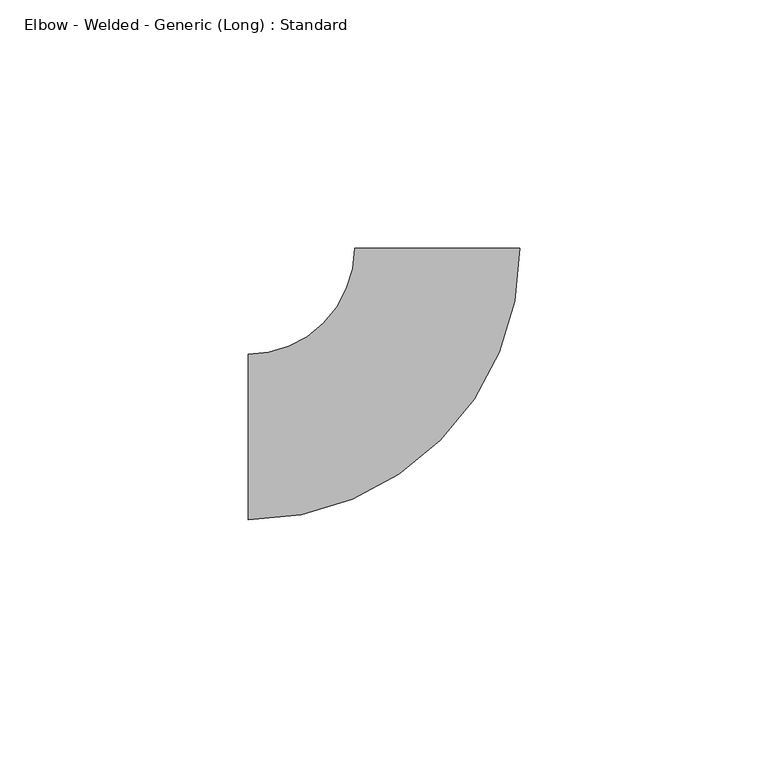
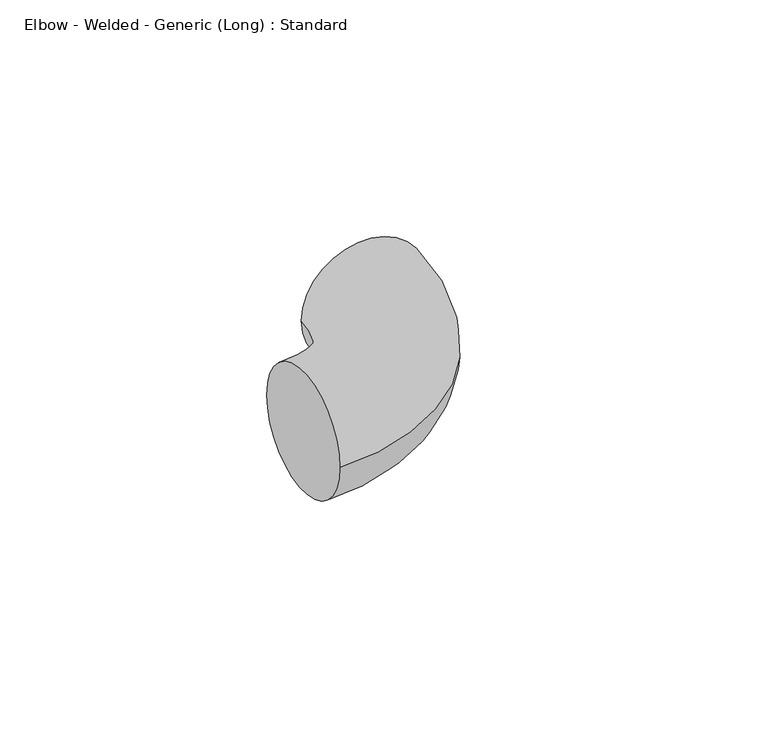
"""IFC4 building model written with IfcOpenShell, lengths in millimetres: pipe fitting geometry, Elbow - Welded - Generic (Long) : Standard."""

from ifc_helpers import new_model, si_unit, point, frame, origin, place, context, project, spatial, circle_curve, ellipse_curve, trimmed, source, transform, mapped, element, save
from ifc_brep_helpers import plane_surface, revolved_surface, advanced_brep


def elbow_welded_generic_long_standard_25611d14(model_context):
    return source(origin(), model_context, "Body", "AdvancedBrep", [
        advanced_brep(
        [(-38.1, -16.66875, 0.0), (-38.1, 16.66875, 0.0), (16.7199773, 38.077547, 0.0), (-16.6174926, 38.1223841, 0.0)],
        [
            (0, 1, circle_curve(frame((-38.1, 0.0, 0.0), z_axis=(-1.0, 0.0, 0.0), x_axis=(0.0, 1.0, 0.0)), 16.66875)),
            (1, 0, circle_curve(frame((-38.1, 0.0, 0.0), z_axis=(-1.0, 0.0, 0.0), x_axis=(0.0, 1.0, 0.0)), 16.66875)),
            (2, 3, circle_curve(frame((0.0512424, 38.0999655, 0.0), z_axis=(0.0013449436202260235, 0.9999990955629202, 0.0), x_axis=(-0.9999990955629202, 0.0013449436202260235, 0.0)), 16.66875)),
            (3, 2, circle_curve(frame((0.0512424, 38.0999655, 0.0), z_axis=(0.0013449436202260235, 0.9999990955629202, 0.0), x_axis=(-0.9999990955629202, 0.0013449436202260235, 0.0)), 16.66875)),
            (3, 1, circle_curve(frame((-38.1, 38.1512769, 0.0), z_axis=(0.0, 0.0, -1.0), x_axis=(0.0, -1.0, 0.0)), 21.4825269)),
            (0, 2, circle_curve(frame((-38.1, 38.1512769, 0.0), z_axis=(0.0, 0.0, 1.0), x_axis=(0.0, -1.0, 0.0)), 54.8200269)),
        ],
        [
            plane_surface(frame((-38.1, 0.0, 0.0), z_axis=(-1.0, 0.0, 0.0), x_axis=(0.0, 0.0, 1.0))),
            plane_surface(frame((0.0512424, 38.0999655, 0.0), z_axis=(0.0013449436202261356, 0.9999990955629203, 0.0), x_axis=(0.0, 0.0, 1.0))),
            revolved_surface(trimmed(ellipse_curve(frame((-38.1, 0.0, 0.0), z_axis=(-1.0, 0.0, 0.0), x_axis=(0.0, 1.0, 0.0)), 16.66875, 16.66875), [point((-38.1, -16.66875, 0.0))], [point((-38.1, 16.66875, 0.0))], True, "CARTESIAN"), (-38.1, 38.1512769, 0.0), (0.0, 0.0, 1.0)),
            revolved_surface(trimmed(ellipse_curve(frame((-38.1, 0.0, 0.0), z_axis=(-1.0, 0.0, 0.0), x_axis=(0.0, 1.0, 0.0)), 16.66875, 16.66875), [point((-38.1, 16.66875, 0.0))], [point((-38.1, -16.66875, 0.0))], True, "CARTESIAN"), (-38.1, 38.1512769, 0.0), (0.0, 0.0, 1.0)),
        ],
        [
            (0, [[1, 2]]),
            (1, [[3, 4]]),
            (2, [[5, -1, 6, -4]]),
            (3, [[-6, -2, -5, -3]]),
        ],
    ),
    ])


if __name__ == "__main__":
    model = new_model("IFC4")
    model_context = context("Model", 3, world=origin())
    ifc_project = project(units=[si_unit("LENGTHUNIT", "METRE", prefix="MILLI")], contexts=[model_context])
    site = spatial("IfcSite", under=ifc_project)
    building = spatial("IfcBuilding", under=site)
    placement = place(None, origin())
    elbow_welded_generic_long_standard_shape = elbow_welded_generic_long_standard_25611d14(model_context)
    element("IfcPipeFitting", 1, ObjectType="Elbow - Welded - Generic (Long) : Standard", at=placement, inside=building, context=model_context, shape_type="MappedRepresentation", body=[
        mapped(elbow_welded_generic_long_standard_shape, transform((0.0, 0.0, 0.0), x_axis=(1.0, 0.0, 0.0), y_axis=(0.0, 1.0, 0.0), z_axis=(0.0, 0.0, 1.0))),
    ])
    save(model, "model.ifc")
